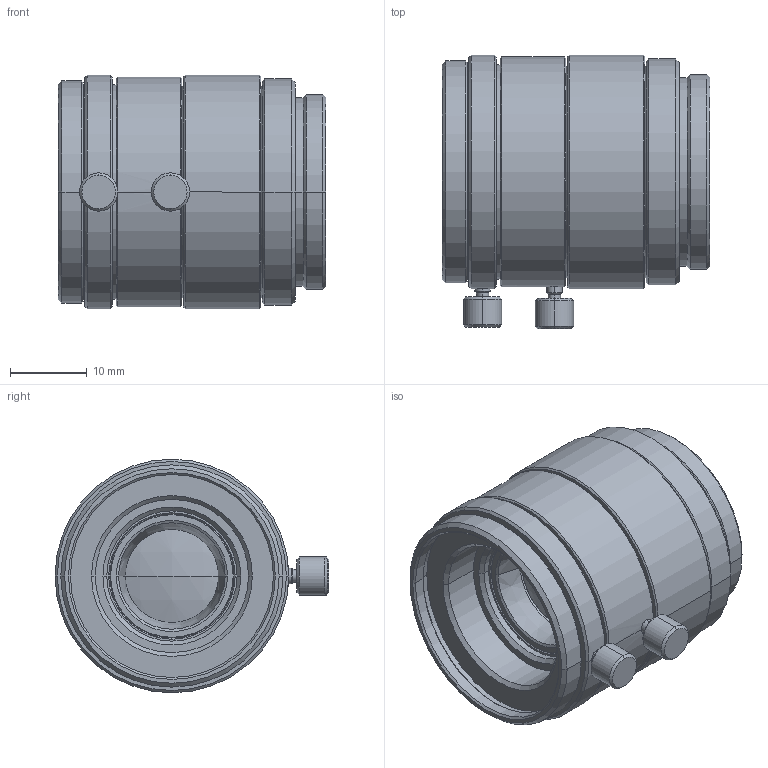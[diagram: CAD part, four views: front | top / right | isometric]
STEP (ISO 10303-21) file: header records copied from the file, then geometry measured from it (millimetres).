
FILE_DESCRIPTION (( 'STEP AP203' ), '1' );
FILE_NAME ('VS-LDA20.STEP', '2016-09-27T00:13:45', ( '' ), ( '' ), 'SwSTEP 2.0', 'SolidWorks 2016', '' );
FILE_SCHEMA (( 'CONFIG_CONTROL_DESIGN' ));
Length unit declared in the file: millimetre
Products named in the file (1): VS-LDA20
Bounding box: 34.98 x 35.75 x 30.5 mm (x, y, z)
Volume: 18450 mm3; surface area: 6976.1 mm2
Topology: 1 solids, 1 shells, 151 faces, 306 edges, 178 vertices
Faces by surface type: cone 76, cylinder 48, plane 23, sphere 4
Entity records: 4057 total; most frequent: DIRECTION 774, CARTESIAN_POINT 704, ORIENTED_EDGE 612, AXIS2_PLACEMENT_3D 324, EDGE_CURVE 306, VERTEX_POINT 178, EDGE_LOOP 172, CIRCLE 172
